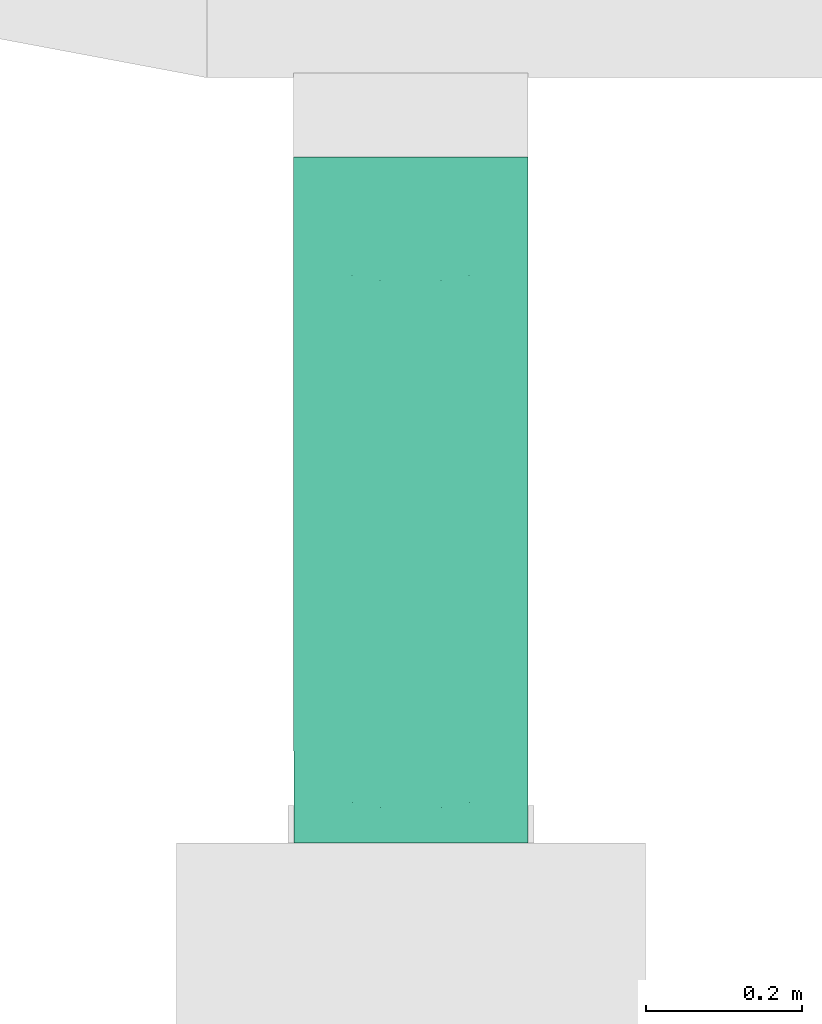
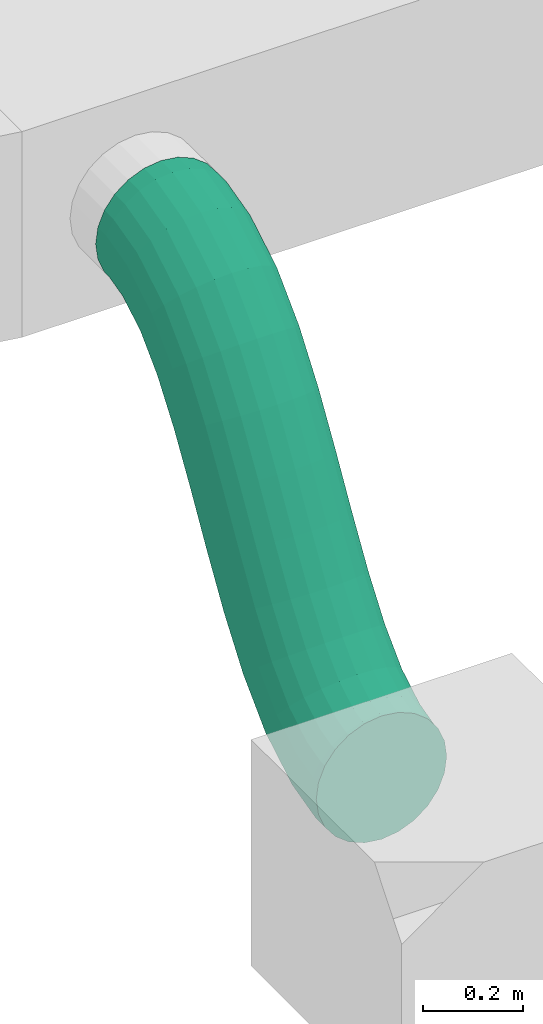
# One storey, part 50 of 60: 1 flow segment.
"""IFC2X3 building model written with IfcOpenShell, lengths in millimetres."""

from ifc_helpers import new_model, entity, si_unit, converted_unit, derived_unit, direction, frame, origin, place, context, subcontext, project, spatial, faceted_brep, type_object, element, save


model = new_model("IFC2X3")

# Units and contexts
model_context = context("Model", 3, precision=0.01, world=origin(), true_north=direction((6.123233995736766e-17, 1.0)))
body_context = subcontext(model_context, "Body", "Model", "MODEL_VIEW")
ifc_project = project(units=[si_unit("LENGTHUNIT", "METRE", prefix="MILLI"), converted_unit("PLANEANGLEUNIT", "DEGREE", entity("IfcPlaneAngleMeasure", 0.017453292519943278), si_unit("PLANEANGLEUNIT", "RADIAN"), dimensions=[0, 0, 0, 0, 0, 0, 0]), si_unit("AREAUNIT", "SQUARE_METRE"), derived_unit("THERMALTRANSMITTANCEUNIT", [(si_unit("MASSUNIT", "GRAM", prefix="KILO"), 1), (si_unit("THERMODYNAMICTEMPERATUREUNIT", "KELVIN"), -1), (si_unit("TIMEUNIT", "SECOND"), -3)])], contexts=[model_context])

# Site, building, storey
site_placement = place(None, origin())
site = spatial("IfcSite", under=ifc_project, at=site_placement, Name="Default", CompositionType="ELEMENT")
building_placement = place(site_placement, origin())
building = spatial("IfcBuilding", under=site, at=building_placement, Name="Praça Pedro II, 1301 - Centro (Sul), Teresina - PI, 64001-100", CompositionType="ELEMENT")
storey_placement = place(building_placement, frame((0.0, 0.0, 6040.0)))
storey = spatial("IfcBuildingStorey", under=building, at=storey_placement, Name="2PAV", CompositionType="ELEMENT", Elevation=6040.0)

# Flow segment
duct_segment_type = type_object("IfcDuctSegmentType", Name="Duto flexível redondo:Flexível - Redondo", PredefinedType="FLEXIBLESEGMENT")
flow_segment_placement = place(storey_placement, frame((26360.48269014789, -59589.90897878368, 2510.904727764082)))
element("IfcFlowSegment", 1, at=flow_segment_placement, inside=storey, type_object=duct_segment_type, Name="Duto flexível redondo:Flexível - Redondo", ObjectType="Duto flexível redondo:Flexível - Redondo", context=body_context, shape_type="Brep", body=[
    faceted_brep([(46.10899363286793, 0.0, 45.52925505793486), (77.17501081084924, 0.0, 21.691461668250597), (113.3521540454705, 0.0, 6.706398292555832), (152.17501081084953, 0.0, 1.5952722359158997), (190.99786757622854, 0.0, 6.706398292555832), (227.17501081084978, 0.0, 21.691461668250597), (258.2410279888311, 0.0, 45.529255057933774), (282.0788213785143, 0.0, 76.59527223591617), (297.06388475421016, 0.0, 112.77241547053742), (302.1750108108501, 0.0, 151.59527223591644), (297.06388475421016, 0.0, 190.4181290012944), (282.0788213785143, 0.0, 226.59527223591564), (258.2410279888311, 0.0, 257.66128941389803), (227.17501081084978, 0.0, 281.4990828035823), (190.99786757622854, 0.0, 296.48414617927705), (152.17501081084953, 0.0, 301.595272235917), (113.3521540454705, 0.0, 296.48414617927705), (77.17501081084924, 0.0, 281.4990828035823), (46.10899363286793, 0.0, 257.66128941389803), (22.27120024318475, 0.0, 226.59527223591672), (7.286136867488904, 0.0, 190.4181290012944), (2.1750108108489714, 0.0, 151.59527223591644), (7.286136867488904, 0.0, 112.7724154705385), (22.27120024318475, 0.0, 76.59527223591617), (7.286136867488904, 32.559124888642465, 112.77241547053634), (22.27120024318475, 37.14762006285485, 76.59527223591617), (46.1089936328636, 41.088836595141, 45.52925505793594), (2.1750108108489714, 27.636049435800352, 151.59527223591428), (77.17501081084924, 44.114187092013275, 21.691461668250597), (113.3521540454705, 46.01749891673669, 6.706398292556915), (152.17501081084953, 46.66906451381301, 1.5952722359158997), (190.99786757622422, 46.02448076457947, 6.706398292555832), (227.17501081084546, 44.1276749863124, 21.691461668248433), (258.2410279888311, 41.10791135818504, 45.529255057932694), (282.0788213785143, 37.17098178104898, 76.59527223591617), (297.06388475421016, 32.58518149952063, 112.77241547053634), (302.1750108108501, 27.663025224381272, 151.59527223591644), (297.06388475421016, 22.73994977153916, 190.41812900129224), (282.0788213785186, 18.15145459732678, 226.59527223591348), (258.24102798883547, 14.210238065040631, 257.6612894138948), (190.99786757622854, 9.281575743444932, 296.48414617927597), (152.17501081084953, 8.630010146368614, 301.595272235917), (227.17501081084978, 11.184887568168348, 281.49908280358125), (77.17501081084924, 11.171399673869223, 281.4990828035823), (46.10899363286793, 14.191163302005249, 257.6612894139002), (113.35215404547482, 9.274593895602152, 296.4841461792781), (7.286136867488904, 22.713893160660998, 190.41812900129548), (22.27120024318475, 18.128092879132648, 226.59527223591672), (151.59527223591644, 877.3877009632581, 819.0952722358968), (112.77241547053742, 877.3877009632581, 824.2063982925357), (76.59527223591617, 877.3877009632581, 839.1914616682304), (45.52925505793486, 877.3877009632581, 863.0292550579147), (21.69146166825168, 877.3877009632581, 894.0952722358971), (6.706398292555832, 877.3877009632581, 930.2724154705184), (1.5952722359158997, 877.3877009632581, 969.0952722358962), (6.706398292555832, 877.3877009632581, 1007.9181290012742), (21.69146166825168, 877.3877009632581, 1044.0952722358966), (45.52925505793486, 877.3877009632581, 1075.1612894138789), (76.59527223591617, 877.3877009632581, 1098.999082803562), (112.77241547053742, 877.3877009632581, 1113.9841461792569), (151.59527223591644, 877.3877009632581, 1119.0952722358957), (190.41812900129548, 877.3877009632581, 1113.9841461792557), (226.59527223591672, 877.3877009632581, 1098.999082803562), (257.66128941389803, 877.3877009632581, 1075.161289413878), (281.49908280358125, 877.3877009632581, 1044.0952722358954), (296.48414617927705, 877.3877009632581, 1007.9181290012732), (301.595272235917, 877.3877009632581, 969.0952722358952), (296.48414617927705, 877.3877009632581, 930.2724154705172), (281.49908280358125, 877.3877009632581, 894.095272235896), (257.66128941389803, 877.3877009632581, 863.0292550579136), (226.59527223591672, 877.3877009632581, 839.1914616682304), (190.41812900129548, 877.3877009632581, 824.2063982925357), (2.161513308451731, 101.48280808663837, 170.62834798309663), (7.270796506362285, 116.48842621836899, 134.40414012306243), (22.254142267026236, 130.47423794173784, 100.64903735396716), (46.090460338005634, 142.4871333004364, 71.66339414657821), (77.15534503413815, 151.7084533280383, 49.42253418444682), (113.33177580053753, 157.50978030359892, 35.44213531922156), (152.154388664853, 159.4957633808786, 30.6749386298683), (190.9774867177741, 157.5310610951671, 35.445820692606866), (227.1553399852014, 151.74956466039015, 49.42965377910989), (258.2224875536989, 142.5452735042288, 71.67346277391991), (282.06175465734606, 130.5454448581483, 100.66136885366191), (297.0485346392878, 116.5678472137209, 134.4178941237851), (302.1615032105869, 101.56503075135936, 170.64258717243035), (297.05222001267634, 86.55941261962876, 206.8667950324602), (282.0688742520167, 72.57360089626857, 240.62189780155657), (258.23255618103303, 60.56070553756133, 269.60754100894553), (227.16767148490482, 51.33938550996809, 291.8484009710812), (190.99124071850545, 45.53805853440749, 305.82879983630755), (152.16862785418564, 43.552075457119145, 310.59599652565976), (113.3455298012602, 45.5167777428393, 305.8251144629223), (77.1676765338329, 51.298274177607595, 291.8412813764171), (46.10052896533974, 60.5025653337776, 269.5974723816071), (7.274481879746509, 86.47999162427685, 206.8530410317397), (22.26126186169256, 72.50239397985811, 240.60956630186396), (2.124500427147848, 189.9254103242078, 222.8208909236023), (7.2300448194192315, 213.86493708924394, 191.86884148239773), (22.209905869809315, 236.17749436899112, 163.0275926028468), (46.043230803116, 255.34251825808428, 138.26262773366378), (77.10581791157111, 270.0539440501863, 119.26163830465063), (113.28080321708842, 279.30921238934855, 107.3195103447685), (152.10292125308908, 282.47759203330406, 103.25008013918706), (190.9265088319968, 279.3431631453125, 107.33067263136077), (227.10580261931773, 270.1195318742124, 119.28320218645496), (258.1752435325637, 255.43527344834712, 138.29312366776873), (282.01750051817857, 236.29109581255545, 163.06494234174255), (297.0077631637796, 213.99164303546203, 191.91049970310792), (302.1244698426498, 190.0565859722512, 222.8640186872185), (297.0189254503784, 166.11705920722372, 253.81606812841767), (282.03906439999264, 143.80450192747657, 282.6573170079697), (258.20573946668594, 124.6394780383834, 307.42228187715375), (227.1431523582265, 109.92805224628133, 326.42327130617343), (190.96816705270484, 100.67278390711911, 338.36539926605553), (152.14604901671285, 97.5044042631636, 342.43482947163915), (113.32246143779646, 100.63883315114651, 338.3542369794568), (77.14316765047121, 109.86246442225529, 326.40170742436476), (46.073726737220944, 124.54672284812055, 307.39178594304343), (7.241207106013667, 165.99035326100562, 253.77440990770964), (22.231469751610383, 143.6909004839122, 282.6199672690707), (2.0691942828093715, 268.2219363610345, 300.80909966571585), (7.170811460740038, 297.7211933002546, 275.3948872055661), (22.14701219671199, 325.2156323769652, 251.71511482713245), (45.977193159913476, 348.8315530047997, 231.38351988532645), (77.03736689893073, 366.95956922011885, 215.7856669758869), (113.21083390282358, 378.3642866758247, 205.9845239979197), (152.03243217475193, 382.26849272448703, 202.64802264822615), (190.85653394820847, 378.4061221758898, 206.00353997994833), (227.0373408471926, 367.04038920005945, 215.8224030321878), (258.10919067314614, 348.94584971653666, 231.43547251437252), (281.95458820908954, 325.3556166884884, 251.77874354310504), (296.94850901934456, 297.87732551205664, 275.46585581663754), (302.06914217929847, 268.3835763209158, 300.8825717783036), (296.96752500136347, 238.88431938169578, 326.2967842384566), (281.99132426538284, 211.38988030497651, 349.9765566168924), (258.1611433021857, 187.77395967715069, 370.3081515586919), (227.1009695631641, 169.64594346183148, 385.906004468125), (190.92750255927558, 158.2412260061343, 395.70714744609), (152.1059042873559, 154.33701995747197, 399.0436487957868), (113.2818025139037, 158.19939050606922, 395.68813146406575), (77.1009956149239, 169.56512348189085, 385.8692684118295), (46.02914578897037, 187.6596629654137, 370.2561989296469), (7.189827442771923, 238.72818716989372, 326.22581562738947), (22.183748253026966, 211.24989599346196, 349.91292790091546), (2.0008174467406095, 339.27256544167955, 397.228530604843), (7.099860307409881, 371.4468051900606, 375.4444101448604), (22.073661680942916, 401.4344308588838, 355.1480227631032), (45.90178174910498, 427.19183531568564, 337.72253371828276), (76.96037350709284, 446.9636940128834, 324.3554612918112), (113.13284525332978, 459.40258745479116, 315.95774937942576), (151.95410281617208, 463.6608256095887, 313.1016881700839), (190.7785416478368, 459.44821658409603, 315.9819135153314), (226.96034040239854, 447.0518427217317, 324.40214281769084), (258.03376928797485, 427.31649641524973, 337.7885513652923), (281.88122547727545, 401.587108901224, 355.22887753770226), (296.8775442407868, 371.6170954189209, 375.53459192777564), (302.00075123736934, 339.4488628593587, 397.32189365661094), (296.90170837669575, 307.274623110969, 419.10601411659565), (281.9279070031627, 277.28699744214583, 439.4024014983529), (258.0997869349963, 251.52959298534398, 456.8278905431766), (227.04119517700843, 231.75773428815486, 470.19496296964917), (190.86872343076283, 219.3188408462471, 478.59267488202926), (152.04746586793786, 215.06060269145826, 481.44873609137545), (113.22302703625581, 219.27321171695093, 478.56851074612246), (77.04122828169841, 231.66958557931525, 470.14828144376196), (45.96779939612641, 251.40493188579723, 456.7618728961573), (7.124024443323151, 307.10433288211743, 419.01583233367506), (22.12034320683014, 277.1343193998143, 439.3215467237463), (1.9245967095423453, 405.9753175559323, 504.70879041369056), (7.022419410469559, 439.21735087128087, 484.64523959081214), (21.995083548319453, 470.20020110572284, 465.9524891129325), (45.82222680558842, 496.81243821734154, 449.9044190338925), (76.88006874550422, 517.2404822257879, 437.5946788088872), (113.05206876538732, 530.0921956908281, 429.8621568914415), (151.87316484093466, 534.4917555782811, 427.23381187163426), (190.6977634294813, 530.1393391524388, 429.88876111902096), (226.88003229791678, 517.3315564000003, 437.64607422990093), (257.95420961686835, 496.941236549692, 449.97710313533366), (281.8026415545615, 470.35794620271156, 466.041508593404), (296.80009688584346, 439.3932926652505, 484.74452791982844), (301.92452381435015, 406.15746590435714, 504.81158125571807), (296.8267011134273, 372.91543258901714, 524.8751320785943), (281.8540369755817, 341.9325823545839, 543.5678825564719), (258.0268937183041, 315.32034524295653, 559.6159526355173), (226.96905177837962, 294.89230123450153, 571.9256928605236), (190.79705175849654, 282.04058776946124, 579.6582147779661), (151.97595568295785, 277.64102788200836, 582.2865597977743), (113.15135709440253, 281.99344430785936, 579.6316105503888), (76.96908822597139, 294.8012270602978, 571.8742974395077), (45.894910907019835, 315.19154691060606, 559.543268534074), (7.049023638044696, 372.7394907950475, 524.7758437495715), (22.046478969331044, 341.7748372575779, 543.4788630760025), (6.94358193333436, 504.47226837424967, 595.8154123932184), (21.916246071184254, 535.4551186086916, 577.1226619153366), (1.845759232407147, 471.23023505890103, 615.8789632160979), (45.743389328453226, 562.0673557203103, 561.0745918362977), (76.80123126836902, 582.4953997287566, 548.7648516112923), (112.97323128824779, 595.347113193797, 541.0323296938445), (151.79432736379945, 599.7466730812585, 538.4039846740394), (190.61892595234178, 595.3942566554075, 541.0589339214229), (226.80119482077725, 582.586473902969, 548.8162470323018), (257.87537213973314, 562.1961540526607, 561.1472759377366), (296.7212594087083, 504.6482101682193, 595.9147007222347), (301.84568633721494, 471.4123834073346, 615.98175405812), (281.7238040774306, 535.6128637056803, 577.2116813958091), (296.7478636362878, 438.17035009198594, 636.0453048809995), (281.77519949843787, 407.18749985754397, 654.7380553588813), (257.9480562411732, 380.5752627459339, 670.786125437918), (226.89021430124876, 360.14721873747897, 683.0958656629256), (190.71821428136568, 347.2955052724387, 690.8283875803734), (151.89711820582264, 342.8959453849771, 693.4567326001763), (113.07251961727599, 347.2483618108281, 690.8017833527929), (76.89025074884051, 360.05614456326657, 683.0444702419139), (45.81607342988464, 380.44646441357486, 670.713441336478), (21.967641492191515, 407.02975476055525, 654.6490358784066), (6.970186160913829, 437.9944082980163, 635.9460165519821), (6.868574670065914, 570.1130778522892, 701.5845303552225), (21.84237604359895, 600.1007035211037, 681.2881429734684), (1.7695318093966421, 537.9388381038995, 723.3686508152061), (45.67049611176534, 625.8581079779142, 663.8626539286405), (76.72908786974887, 645.629966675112, 650.4955815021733), (112.90155961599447, 658.068860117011, 642.0978695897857), (151.7228171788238, 662.3270982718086, 639.2418083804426), (190.54725601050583, 658.1144892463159, 642.1220337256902), (226.72905476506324, 645.7181153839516, 650.542263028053), (257.80248365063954, 625.982769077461, 663.9286715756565), (296.64625860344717, 570.283368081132, 701.674712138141), (301.76946560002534, 538.1151355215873, 723.4620138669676), (281.6499398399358, 600.2533815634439, 681.3689977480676), (296.67042273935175, 505.9408957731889, 745.2461343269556), (281.6966213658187, 475.9532701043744, 765.5425217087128), (257.86850129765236, 450.19586564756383, 782.9680107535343), (226.80990953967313, 430.42400695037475, 796.3350831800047), (190.63743779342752, 417.985113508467, 804.7327950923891), (151.81618023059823, 413.72687535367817, 807.5888563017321), (112.99174139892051, 417.9394843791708, 804.7086309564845), (76.80994264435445, 430.33585824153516, 796.2884016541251), (45.73651375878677, 450.0712045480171, 782.9019931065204), (21.88905756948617, 475.8005920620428, 765.4616669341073), (6.892738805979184, 505.770605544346, 745.1559525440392), (6.802758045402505, 638.503381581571, 794.3937602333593), (21.778958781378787, 665.9978206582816, 770.7139878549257), (1.7011408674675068, 609.0041246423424, 819.8079726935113), (45.60913974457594, 689.6137412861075, 750.382392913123), (76.66931348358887, 707.7417575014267, 734.7845400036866), (112.84278048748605, 719.1464749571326, 724.9833970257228), (151.6643787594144, 723.0506810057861, 721.6468956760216), (190.48848053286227, 719.1883104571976, 725.002413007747), (226.66928743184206, 707.8225774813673, 734.8212760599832), (257.74113725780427, 689.7280379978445, 750.4343455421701), (296.58045560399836, 638.6595137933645, 794.4647288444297), (301.7010887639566, 609.1657646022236, 819.8814448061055), (281.58653479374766, 666.1378049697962, 770.7776165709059), (296.5994715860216, 579.666507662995, 845.2956572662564), (281.62327085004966, 552.172068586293, 868.9754296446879), (257.7930898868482, 528.5561479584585, 889.3070245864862), (226.7329161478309, 510.4281317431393, 904.9048774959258), (190.55944914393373, 499.02341428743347, 914.7060204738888), (151.73785087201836, 495.11920823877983, 918.0425218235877), (112.91374909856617, 498.9815787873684, 914.6870044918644), (76.73294219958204, 510.3473117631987, 904.8681414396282), (45.661092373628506, 528.4418512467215, 889.2550719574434), (21.81569483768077, 552.0320842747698, 868.9118009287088), (6.821774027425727, 579.5103754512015, 845.2246886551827), (6.751357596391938, 711.2706417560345, 866.8744763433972), (21.731218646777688, 733.5831990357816, 838.0332274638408), (1.6458132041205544, 687.331114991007, 897.8265257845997), (45.56454358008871, 752.7482229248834, 813.2682625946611), (76.62713068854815, 767.4596487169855, 794.2672731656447), (112.80211599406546, 776.7149170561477, 782.3251452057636), (151.62423403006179, 779.8832967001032, 778.2557150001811), (190.44782160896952, 776.7488678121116, 782.336307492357), (226.62711539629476, 767.5252365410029, 794.2888370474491), (257.69655630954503, 752.8409781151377, 813.2987585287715), (296.5290759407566, 711.3973477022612, 866.9161345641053), (301.6457826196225, 687.4622906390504, 897.8696535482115), (281.5388132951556, 733.6968004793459, 838.070577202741), (296.5402382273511, 663.5227638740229, 928.8217029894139), (281.56037717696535, 641.2102065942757, 957.6629518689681), (257.7270522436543, 622.0451827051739, 982.42791673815), (226.6644651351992, 607.3337569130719, 1001.4289061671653), (190.48947982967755, 598.0784885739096, 1013.3710341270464), (151.66736179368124, 594.910108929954, 1017.440464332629), (112.84377421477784, 598.0445378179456, 1013.3598718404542), (76.66448042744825, 607.2681690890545, 1001.4073422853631), (45.59503951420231, 621.9524275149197, 982.397420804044), (21.75278252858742, 641.0966051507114, 957.6256021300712), (6.762519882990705, 663.3960579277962, 928.7800447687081), (6.718063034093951, 790.8282883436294, 913.8237494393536), (21.701408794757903, 804.8141000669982, 880.0686466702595), (1.6087798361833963, 775.8226702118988, 950.0479572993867), (45.537726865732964, 816.8269954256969, 851.0830034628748), (76.60261156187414, 826.0483154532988, 828.8421435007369), (112.77904232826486, 831.8496424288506, 814.8617446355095), (151.60165519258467, 833.835625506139, 810.0945479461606), (190.42475324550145, 831.8709232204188, 814.8654300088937), (226.60260651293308, 826.0894267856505, 828.8492630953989), (257.6697540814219, 816.8851356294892, 851.0930720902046), (296.49580116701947, 790.9077093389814, 913.8375034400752), (301.6087697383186, 775.9048928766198, 950.0621964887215), (281.50902118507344, 804.8853069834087, 880.0809781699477), (296.49948654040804, 760.8992747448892, 986.2864043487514), (281.5161407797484, 746.913463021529, 1020.0415071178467), (257.679822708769, 734.9005676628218, 1049.0271503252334), (226.61493801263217, 725.6792476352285, 1071.2680102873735), (190.43850724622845, 719.8779206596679, 1085.248409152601), (151.61589438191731, 717.8919375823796, 1090.015605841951), (112.79279632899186, 719.8566398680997, 1085.2447237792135), (76.61494306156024, 725.638136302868, 1071.2608906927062), (45.54779549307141, 734.8424274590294, 1049.017081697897), (21.708528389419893, 746.8422561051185, 1020.029175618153), (6.721748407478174, 760.8198537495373, 986.2726503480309), (6.706398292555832, 854.647751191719, 930.2724154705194), (21.69146166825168, 859.2362463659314, 894.0952722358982), (1.5952722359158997, 849.7246757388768, 969.0952722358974), (45.52925505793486, 863.1774628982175, 863.0292550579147), (76.59527223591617, 866.2028133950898, 839.1914616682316), (112.77241547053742, 868.1061252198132, 824.20639829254), (151.59527223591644, 868.7576908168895, 819.0952722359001), (190.41812900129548, 868.113107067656, 824.206398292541), (226.59527223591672, 866.216301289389, 839.1914616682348), (257.6612894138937, 863.1965376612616, 863.0292550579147), (296.48414617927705, 854.6738078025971, 930.2724154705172), (301.595272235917, 849.7516515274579, 969.0952722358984), (281.49908280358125, 859.2596080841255, 894.0952722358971), (296.48414617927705, 844.8285760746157, 1007.9181290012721), (281.49908280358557, 840.240080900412, 1044.0952722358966), (257.66128941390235, 836.2988643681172, 1075.1612894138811), (226.59527223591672, 833.2735138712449, 1098.9990828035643), (190.41812900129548, 831.3702020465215, 1113.984146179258), (151.59527223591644, 830.7186364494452, 1119.095272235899), (112.77241547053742, 831.3632201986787, 1113.984146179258), (76.59527223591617, 833.2600259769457, 1098.9990828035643), (45.52925505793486, 836.2797896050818, 1075.1612894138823), (21.69146166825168, 840.2167191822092, 1044.0952722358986), (6.706398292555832, 844.8025194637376, 1007.9181290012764)], [[[0, 1, 2, 3, 4, 5, 6, 7, 8, 9, 10, 11, 12, 13, 14, 15, 16, 17, 18, 19, 20, 21, 22, 23]], [[23, 22, 24, 25]], [[0, 23, 25, 26]], [[21, 27, 24, 22]], [[2, 1, 28, 29]], [[3, 2, 29, 30]], [[0, 26, 28, 1]], [[3, 30, 31, 4]], [[4, 31, 32, 5]], [[5, 32, 33, 6]], [[7, 34, 35, 8]], [[8, 35, 36, 9]], [[6, 33, 34, 7]], [[37, 38, 11, 10]], [[36, 37, 10, 9]], [[11, 38, 39, 12]], [[40, 41, 15, 14]], [[42, 40, 14, 13]], [[12, 39, 42, 13]], [[17, 43, 44, 18]], [[45, 43, 17, 16]], [[15, 41, 45, 16]], [[46, 27, 21, 20]], [[47, 46, 20, 19]], [[44, 47, 19, 18]], [[48, 49, 50, 51, 52, 53, 54, 55, 56, 57, 58, 59, 60, 61, 62, 63, 64, 65, 66, 67, 68, 69, 70, 71]], [[24, 27, 72, 73]], [[25, 24, 73, 74]], [[26, 25, 74, 75]], [[29, 28, 76, 77]], [[30, 29, 77, 78]], [[75, 76, 28, 26]], [[30, 78, 79, 31]], [[31, 79, 80, 32]], [[32, 80, 81, 33]], [[33, 81, 82, 34]], [[34, 82, 83, 35]], [[84, 36, 35, 83]], [[85, 86, 38, 37]], [[84, 85, 37, 36]], [[87, 39, 38, 86]], [[88, 89, 40, 42]], [[88, 42, 39, 87]], [[90, 41, 40, 89]], [[91, 92, 43, 45]], [[90, 91, 45, 41]], [[44, 43, 92, 93]], [[94, 72, 27, 46]], [[95, 94, 46, 47]], [[93, 95, 47, 44]], [[72, 96, 97, 73]], [[73, 97, 98, 74]], [[99, 75, 74, 98]], [[76, 100, 101, 77]], [[77, 101, 102, 78]], [[100, 76, 75, 99]], [[79, 78, 102, 103]], [[80, 79, 103, 104]], [[104, 105, 81, 80]], [[82, 81, 105, 106]], [[83, 82, 106, 107]], [[84, 83, 107, 108]], [[109, 110, 86, 85]], [[108, 109, 85, 84]], [[87, 86, 110, 111]], [[112, 113, 89, 88]], [[111, 112, 88, 87]], [[90, 89, 113, 114]], [[115, 116, 92, 91]], [[114, 115, 91, 90]], [[117, 93, 92, 116]], [[118, 96, 72, 94]], [[119, 118, 94, 95]], [[119, 95, 93, 117]], [[96, 120, 121, 97]], [[97, 121, 122, 98]], [[123, 99, 98, 122]], [[100, 124, 125, 101]], [[101, 125, 126, 102]], [[124, 100, 99, 123]], [[103, 102, 126, 127]], [[104, 103, 127, 128]], [[128, 129, 105, 104]], [[106, 105, 129, 130]], [[107, 106, 130, 131]], [[108, 107, 131, 132]], [[133, 134, 110, 109]], [[132, 133, 109, 108]], [[111, 110, 134, 135]], [[136, 137, 113, 112]], [[135, 136, 112, 111]], [[114, 113, 137, 138]], [[139, 140, 116, 115]], [[138, 139, 115, 114]], [[141, 117, 116, 140]], [[142, 120, 96, 118]], [[143, 142, 118, 119]], [[143, 119, 117, 141]], [[120, 144, 145, 121]], [[121, 145, 146, 122]], [[147, 123, 122, 146]], [[124, 148, 149, 125]], [[125, 149, 150, 126]], [[148, 124, 123, 147]], [[127, 126, 150, 151]], [[128, 127, 151, 152]], [[152, 153, 129, 128]], [[130, 129, 153, 154]], [[131, 130, 154, 155]], [[132, 131, 155, 156]], [[157, 158, 134, 133]], [[156, 157, 133, 132]], [[135, 134, 158, 159]], [[160, 161, 137, 136]], [[159, 160, 136, 135]], [[138, 137, 161, 162]], [[163, 164, 140, 139]], [[162, 163, 139, 138]], [[165, 141, 140, 164]], [[166, 144, 120, 142]], [[167, 166, 142, 143]], [[167, 143, 141, 165]], [[144, 168, 169, 145]], [[145, 169, 170, 146]], [[171, 147, 146, 170]], [[148, 172, 173, 149]], [[149, 173, 174, 150]], [[172, 148, 147, 171]], [[151, 150, 174, 175]], [[152, 151, 175, 176]], [[176, 177, 153, 152]], [[154, 153, 177, 178]], [[155, 154, 178, 179]], [[156, 155, 179, 180]], [[181, 182, 158, 157]], [[180, 181, 157, 156]], [[159, 158, 182, 183]], [[184, 185, 161, 160]], [[183, 184, 160, 159]], [[162, 161, 185, 186]], [[187, 188, 164, 163]], [[186, 187, 163, 162]], [[189, 165, 164, 188]], [[190, 168, 144, 166]], [[191, 190, 166, 167]], [[191, 167, 165, 189]], [[192, 193, 170, 169]], [[194, 192, 169, 168]], [[195, 171, 170, 193]], [[196, 197, 173, 172]], [[196, 172, 171, 195]], [[198, 174, 173, 197]], [[199, 200, 176, 175]], [[198, 199, 175, 174]], [[200, 201, 177, 176]], [[202, 203, 180, 179]], [[204, 202, 179, 178]], [[201, 204, 178, 177]], [[181, 180, 203, 205]], [[182, 181, 205, 206]], [[183, 182, 206, 207]], [[185, 184, 208, 209]], [[186, 185, 209, 210]], [[207, 208, 184, 183]], [[186, 210, 211, 187]], [[187, 211, 212, 188]], [[213, 189, 188, 212]], [[189, 213, 214, 191]], [[191, 214, 215, 190]], [[194, 168, 190, 215]], [[216, 217, 193, 192]], [[218, 216, 192, 194]], [[219, 195, 193, 217]], [[220, 221, 197, 196]], [[220, 196, 195, 219]], [[222, 198, 197, 221]], [[223, 224, 200, 199]], [[222, 223, 199, 198]], [[201, 200, 224, 225]], [[226, 227, 203, 202]], [[228, 226, 202, 204]], [[225, 228, 204, 201]], [[205, 203, 227, 229]], [[206, 205, 229, 230]], [[207, 206, 230, 231]], [[209, 208, 232, 233]], [[210, 209, 233, 234]], [[231, 232, 208, 207]], [[210, 234, 235, 211]], [[211, 235, 236, 212]], [[212, 236, 237, 213]], [[213, 237, 238, 214]], [[214, 238, 239, 215]], [[218, 194, 215, 239]], [[240, 241, 217, 216]], [[242, 240, 216, 218]], [[243, 219, 217, 241]], [[244, 245, 221, 220]], [[244, 220, 219, 243]], [[246, 222, 221, 245]], [[247, 248, 224, 223]], [[246, 247, 223, 222]], [[225, 224, 248, 249]], [[250, 251, 227, 226]], [[252, 250, 226, 228]], [[249, 252, 228, 225]], [[229, 227, 251, 253]], [[230, 229, 253, 254]], [[231, 230, 254, 255]], [[233, 232, 256, 257]], [[234, 233, 257, 258]], [[255, 256, 232, 231]], [[234, 258, 259, 235]], [[235, 259, 260, 236]], [[236, 260, 261, 237]], [[237, 261, 262, 238]], [[238, 262, 263, 239]], [[242, 218, 239, 263]], [[264, 265, 241, 240]], [[266, 264, 240, 242]], [[267, 243, 241, 265]], [[268, 269, 245, 244]], [[268, 244, 243, 267]], [[270, 246, 245, 269]], [[271, 272, 248, 247]], [[270, 271, 247, 246]], [[249, 248, 272, 273]], [[274, 275, 251, 250]], [[276, 274, 250, 252]], [[273, 276, 252, 249]], [[253, 251, 275, 277]], [[254, 253, 277, 278]], [[255, 254, 278, 279]], [[257, 256, 280, 281]], [[258, 257, 281, 282]], [[279, 280, 256, 255]], [[258, 282, 283, 259]], [[259, 283, 284, 260]], [[260, 284, 285, 261]], [[261, 285, 286, 262]], [[262, 286, 287, 263]], [[266, 242, 263, 287]], [[288, 289, 265, 264]], [[290, 288, 264, 266]], [[291, 267, 265, 289]], [[292, 293, 269, 268]], [[292, 268, 267, 291]], [[294, 270, 269, 293]], [[295, 296, 272, 271]], [[294, 295, 271, 270]], [[273, 272, 296, 297]], [[298, 299, 275, 274]], [[300, 298, 274, 276]], [[297, 300, 276, 273]], [[277, 275, 299, 301]], [[278, 277, 301, 302]], [[279, 278, 302, 303]], [[281, 280, 304, 305]], [[282, 281, 305, 306]], [[303, 304, 280, 279]], [[282, 306, 307, 283]], [[283, 307, 308, 284]], [[284, 308, 309, 285]], [[285, 309, 310, 286]], [[286, 310, 311, 287]], [[290, 266, 287, 311]], [[312, 313, 289, 288]], [[314, 312, 288, 290]], [[291, 289, 313, 315]], [[316, 317, 293, 292]], [[315, 316, 292, 291]], [[294, 293, 317, 318]], [[319, 320, 296, 295]], [[318, 319, 295, 294]], [[321, 297, 296, 320]], [[322, 323, 299, 298]], [[324, 322, 298, 300]], [[324, 300, 297, 321]], [[299, 323, 325, 301]], [[301, 325, 326, 302]], [[327, 303, 302, 326]], [[304, 328, 329, 305]], [[305, 329, 330, 306]], [[328, 304, 303, 327]], [[307, 306, 330, 331]], [[308, 307, 331, 332]], [[332, 333, 309, 308]], [[310, 309, 333, 334]], [[311, 310, 334, 335]], [[290, 311, 335, 314]], [[312, 314, 54, 53]], [[313, 312, 53, 52]], [[315, 313, 52, 51]], [[49, 48, 318, 317]], [[50, 49, 317, 316]], [[315, 51, 50, 316]], [[318, 48, 71, 319]], [[319, 71, 70, 320]], [[320, 70, 69, 321]], [[324, 68, 67, 322]], [[322, 67, 66, 323]], [[324, 321, 69, 68]], [[323, 66, 65, 325]], [[325, 65, 64, 326]], [[326, 64, 63, 327]], [[328, 62, 61, 329]], [[329, 61, 60, 330]], [[327, 63, 62, 328]], [[331, 330, 60, 59]], [[332, 331, 59, 58]], [[333, 332, 58, 57]], [[335, 334, 56, 55]], [[314, 335, 55, 54]], [[57, 56, 334, 333]]]),
])

save(model, "model.ifc")
